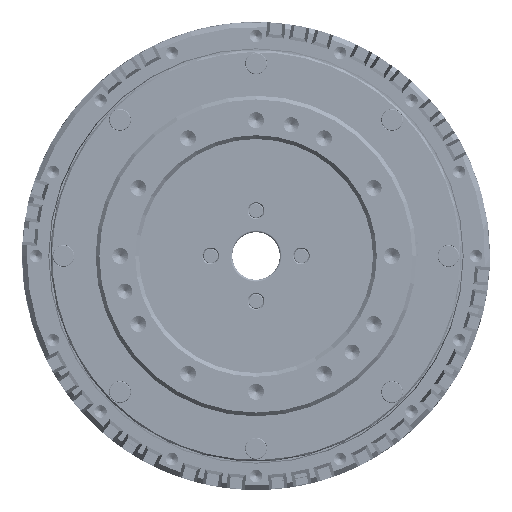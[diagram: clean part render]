
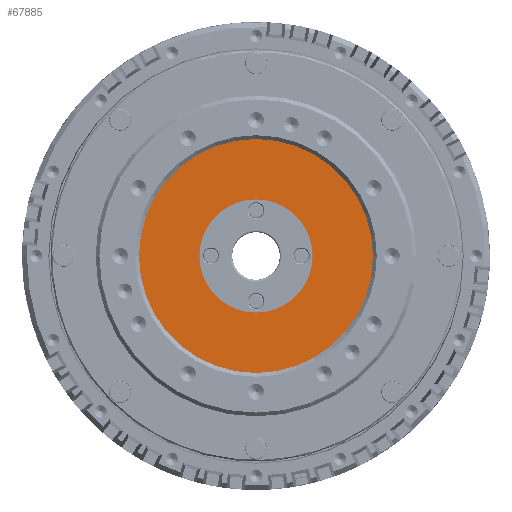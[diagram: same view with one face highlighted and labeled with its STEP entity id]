
A CAD part, front view. The second image highlights one B-rep face of the part: STEP entity #67885.
In plain terms, the highlighted planar face has unit normal (0, -1, 0).
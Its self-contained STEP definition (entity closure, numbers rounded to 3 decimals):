
#8168 = DIRECTION ( 'NONE',  ( 0., -1., 0. ) ) ;
#9678 = EDGE_LOOP ( 'NONE', ( #138949, #64868 ) ) ;
#10764 = EDGE_LOOP ( 'NONE', ( #73071, #34615 ) ) ;
#13805 = CARTESIAN_POINT ( 'NONE',  ( 0., 3.5, 0. ) ) ;
#15279 = EDGE_CURVE ( 'NONE', #39631, #29235, #124877, .T. ) ;
#19288 = DIRECTION ( 'NONE',  ( 0., 0., -1. ) ) ;
#20750 = AXIS2_PLACEMENT_3D ( 'NONE', #57243, #86120, #21429 ) ;
#21076 = CARTESIAN_POINT ( 'NONE',  ( 0., 3.5, 15. ) ) ;
#21429 = DIRECTION ( 'NONE',  ( 0., 0., -1. ) ) ;
#26584 = CIRCLE ( 'NONE', #121807, 15. ) ;
#29235 = VERTEX_POINT ( 'NONE', #21076 ) ;
#34615 = ORIENTED_EDGE ( 'NONE', *, *, #44138, .F. ) ;
#39631 = VERTEX_POINT ( 'NONE', #65332 ) ;
#44138 = EDGE_CURVE ( 'NONE', #29235, #39631, #26584, .T. ) ;
#44939 = DIRECTION ( 'NONE',  ( 0., -1., 0. ) ) ;
#57243 = CARTESIAN_POINT ( 'NONE',  ( 0., 3.5, 0. ) ) ;
#59027 = CARTESIAN_POINT ( 'NONE',  ( 0., 3.5, -31. ) ) ;
#64868 = ORIENTED_EDGE ( 'NONE', *, *, #77306, .T. ) ;
#65332 = CARTESIAN_POINT ( 'NONE',  ( 0., 3.5, -15. ) ) ;
#67885 = ADVANCED_FACE ( 'NONE', ( #136058, #95237 ), #110527, .T. ) ;
#69971 = CARTESIAN_POINT ( 'NONE',  ( 0., 3.5, 0. ) ) ;
#73071 = ORIENTED_EDGE ( 'NONE', *, *, #15279, .F. ) ;
#77306 = EDGE_CURVE ( 'NONE', #113584, #149151, #97830, .T. ) ;
#86120 = DIRECTION ( 'NONE',  ( 0., -1., 0. ) ) ;
#93830 = DIRECTION ( 'NONE',  ( 0., 0., -1. ) ) ;
#94276 = CIRCLE ( 'NONE', #20750, 31. ) ;
#95237 = FACE_OUTER_BOUND ( 'NONE', #9678, .T. ) ;
#97830 = CIRCLE ( 'NONE', #111465, 31. ) ;
#104897 = DIRECTION ( 'NONE',  ( 0., -1., 0. ) ) ;
#108339 = DIRECTION ( 'NONE',  ( 0., -1., 0. ) ) ;
#109714 = DIRECTION ( 'NONE',  ( 0., 0., -1. ) ) ;
#110527 = PLANE ( 'NONE',  #114011 ) ;
#111465 = AXIS2_PLACEMENT_3D ( 'NONE', #13805, #104897, #156796 ) ;
#113584 = VERTEX_POINT ( 'NONE', #118300 ) ;
#114011 = AXIS2_PLACEMENT_3D ( 'NONE', #122476, #44939, #109714 ) ;
#118300 = CARTESIAN_POINT ( 'NONE',  ( 0., 3.5, 31. ) ) ;
#121807 = AXIS2_PLACEMENT_3D ( 'NONE', #164769, #8168, #19288 ) ;
#122476 = CARTESIAN_POINT ( 'NONE',  ( 0., 3.5, 0. ) ) ;
#124877 = CIRCLE ( 'NONE', #154779, 15. ) ;
#136058 = FACE_BOUND ( 'NONE', #10764, .T. ) ;
#138949 = ORIENTED_EDGE ( 'NONE', *, *, #157180, .T. ) ;
#149151 = VERTEX_POINT ( 'NONE', #59027 ) ;
#154779 = AXIS2_PLACEMENT_3D ( 'NONE', #69971, #108339, #93830 ) ;
#156796 = DIRECTION ( 'NONE',  ( 0., 0., -1. ) ) ;
#157180 = EDGE_CURVE ( 'NONE', #149151, #113584, #94276, .T. ) ;
#164769 = CARTESIAN_POINT ( 'NONE',  ( 0., 3.5, 0. ) ) ;
